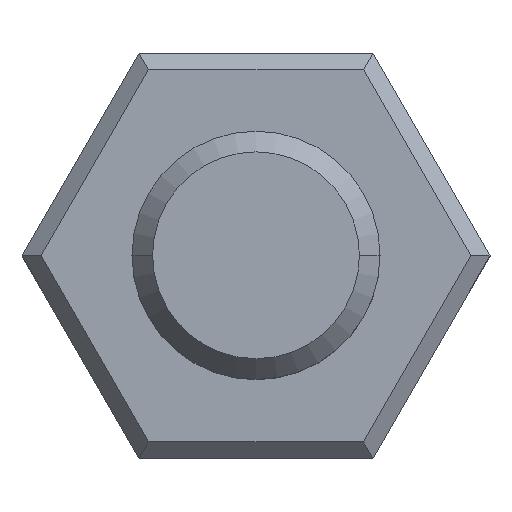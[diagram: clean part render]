
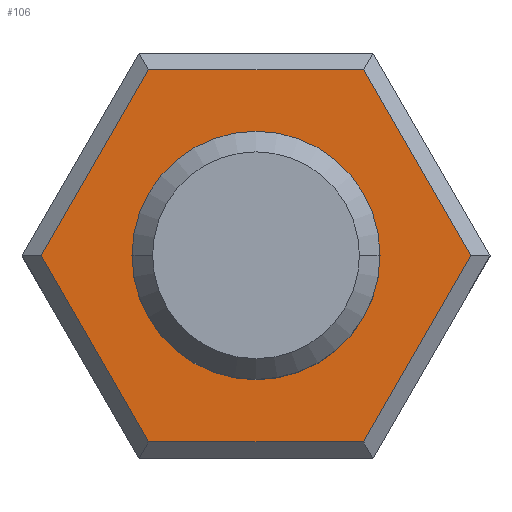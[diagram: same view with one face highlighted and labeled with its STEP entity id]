
A CAD part, top view. The second image highlights one B-rep face of the part: STEP entity #106.
In plain terms, the highlighted planar face has unit normal (0, 0, 1).
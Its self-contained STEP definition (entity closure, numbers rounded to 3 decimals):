
#11 = EDGE_CURVE ( 'NONE', #531, #1100, #310, .T. ) ;
#62 = VECTOR ( 'NONE', #390, 1000. ) ;
#81 = VECTOR ( 'NONE', #586, 1000. ) ;
#89 = LINE ( 'NONE', #1077, #62 ) ;
#106 = ADVANCED_FACE ( 'NONE', ( #928, #224 ), #258, .T. ) ;
#124 = EDGE_CURVE ( 'NONE', #869, #373, #436, .T. ) ;
#161 = CARTESIAN_POINT ( 'NONE',  ( -1.45, 0., -7.42 ) ) ;
#170 = CARTESIAN_POINT ( 'NONE',  ( -1.415, 2.25, -7.42 ) ) ;
#173 = EDGE_CURVE ( 'NONE', #182, #869, #379, .T. ) ;
#175 = CIRCLE ( 'NONE', #387, 1.45 ) ;
#182 = VERTEX_POINT ( 'NONE', #614 ) ;
#191 = CIRCLE ( 'NONE', #719, 1.45 ) ;
#200 = ORIENTED_EDGE ( 'NONE', *, *, #124, .T. ) ;
#209 = VERTEX_POINT ( 'NONE', #161 ) ;
#224 = FACE_BOUND ( 'NONE', #602, .T. ) ;
#237 = EDGE_CURVE ( 'NONE', #373, #531, #784, .T. ) ;
#244 = ORIENTED_EDGE ( 'NONE', *, *, #789, .T. ) ;
#258 = PLANE ( 'NONE',  #263 ) ;
#263 = AXIS2_PLACEMENT_3D ( 'NONE', #272, #679, #443 ) ;
#265 = CARTESIAN_POINT ( 'NONE',  ( 2.598, 0., -7.42 ) ) ;
#266 = DIRECTION ( 'NONE',  ( 1., 0., 0. ) ) ;
#268 = CARTESIAN_POINT ( 'NONE',  ( 1.241, 2.35, -7.42 ) ) ;
#272 = CARTESIAN_POINT ( 'NONE',  ( 0., 0., -7.42 ) ) ;
#275 = VERTEX_POINT ( 'NONE', #703 ) ;
#310 = LINE ( 'NONE', #170, #81 ) ;
#325 = VECTOR ( 'NONE', #1116, 1000. ) ;
#332 = DIRECTION ( 'NONE',  ( 1., 0., 0. ) ) ;
#335 = CARTESIAN_POINT ( 'NONE',  ( -1.241, -2.35, -7.42 ) ) ;
#338 = LINE ( 'NONE', #335, #1005 ) ;
#346 = ORIENTED_EDGE ( 'NONE', *, *, #1019, .T. ) ;
#373 = VERTEX_POINT ( 'NONE', #265 ) ;
#379 = LINE ( 'NONE', #977, #616 ) ;
#387 = AXIS2_PLACEMENT_3D ( 'NONE', #860, #1032, #332 ) ;
#390 = DIRECTION ( 'NONE',  ( -0.5, -0.866, 0. ) ) ;
#436 = LINE ( 'NONE', #504, #641 ) ;
#443 = DIRECTION ( 'NONE',  ( 1., 0., 0. ) ) ;
#446 = EDGE_CURVE ( 'NONE', #1037, #182, #338, .T. ) ;
#466 = EDGE_LOOP ( 'NONE', ( #1115, #710, #200, #984, #766, #346 ) ) ;
#504 = CARTESIAN_POINT ( 'NONE',  ( 2.656, 0.1, -7.42 ) ) ;
#506 = ORIENTED_EDGE ( 'NONE', *, *, #907, .T. ) ;
#519 = DIRECTION ( 'NONE',  ( 0., 0., -1. ) ) ;
#528 = DIRECTION ( 'NONE',  ( 0.5, 0.866, 0. ) ) ;
#531 = VERTEX_POINT ( 'NONE', #757 ) ;
#586 = DIRECTION ( 'NONE',  ( -1., 0., 0. ) ) ;
#602 = EDGE_LOOP ( 'NONE', ( #244, #506 ) ) ;
#614 = CARTESIAN_POINT ( 'NONE',  ( -1.299, -2.25, -7.42 ) ) ;
#616 = VECTOR ( 'NONE', #1127, 1000. ) ;
#641 = VECTOR ( 'NONE', #528, 1000. ) ;
#679 = DIRECTION ( 'NONE',  ( 0., 0., 1. ) ) ;
#703 = CARTESIAN_POINT ( 'NONE',  ( 1.45, 0., -7.42 ) ) ;
#710 = ORIENTED_EDGE ( 'NONE', *, *, #173, .T. ) ;
#714 = CARTESIAN_POINT ( 'NONE',  ( -2.598, 0., -7.42 ) ) ;
#719 = AXIS2_PLACEMENT_3D ( 'NONE', #958, #519, #266 ) ;
#757 = CARTESIAN_POINT ( 'NONE',  ( 1.299, 2.25, -7.42 ) ) ;
#766 = ORIENTED_EDGE ( 'NONE', *, *, #11, .T. ) ;
#784 = LINE ( 'NONE', #268, #325 ) ;
#789 = EDGE_CURVE ( 'NONE', #209, #275, #191, .T. ) ;
#852 = CARTESIAN_POINT ( 'NONE',  ( -1.299, 2.25, -7.42 ) ) ;
#860 = CARTESIAN_POINT ( 'NONE',  ( 0., 0., -7.42 ) ) ;
#869 = VERTEX_POINT ( 'NONE', #1134 ) ;
#907 = EDGE_CURVE ( 'NONE', #275, #209, #175, .T. ) ;
#928 = FACE_OUTER_BOUND ( 'NONE', #466, .T. ) ;
#956 = DIRECTION ( 'NONE',  ( 0.5, -0.866, 0. ) ) ;
#958 = CARTESIAN_POINT ( 'NONE',  ( 0., 0., -7.42 ) ) ;
#977 = CARTESIAN_POINT ( 'NONE',  ( 1.415, -2.25, -7.42 ) ) ;
#984 = ORIENTED_EDGE ( 'NONE', *, *, #237, .T. ) ;
#1005 = VECTOR ( 'NONE', #956, 1000. ) ;
#1019 = EDGE_CURVE ( 'NONE', #1100, #1037, #89, .T. ) ;
#1032 = DIRECTION ( 'NONE',  ( 0., 0., -1. ) ) ;
#1037 = VERTEX_POINT ( 'NONE', #714 ) ;
#1077 = CARTESIAN_POINT ( 'NONE',  ( -2.656, -0.1, -7.42 ) ) ;
#1100 = VERTEX_POINT ( 'NONE', #852 ) ;
#1115 = ORIENTED_EDGE ( 'NONE', *, *, #446, .T. ) ;
#1116 = DIRECTION ( 'NONE',  ( -0.5, 0.866, 0. ) ) ;
#1127 = DIRECTION ( 'NONE',  ( 1., 0., 0. ) ) ;
#1134 = CARTESIAN_POINT ( 'NONE',  ( 1.299, -2.25, -7.42 ) ) ;
